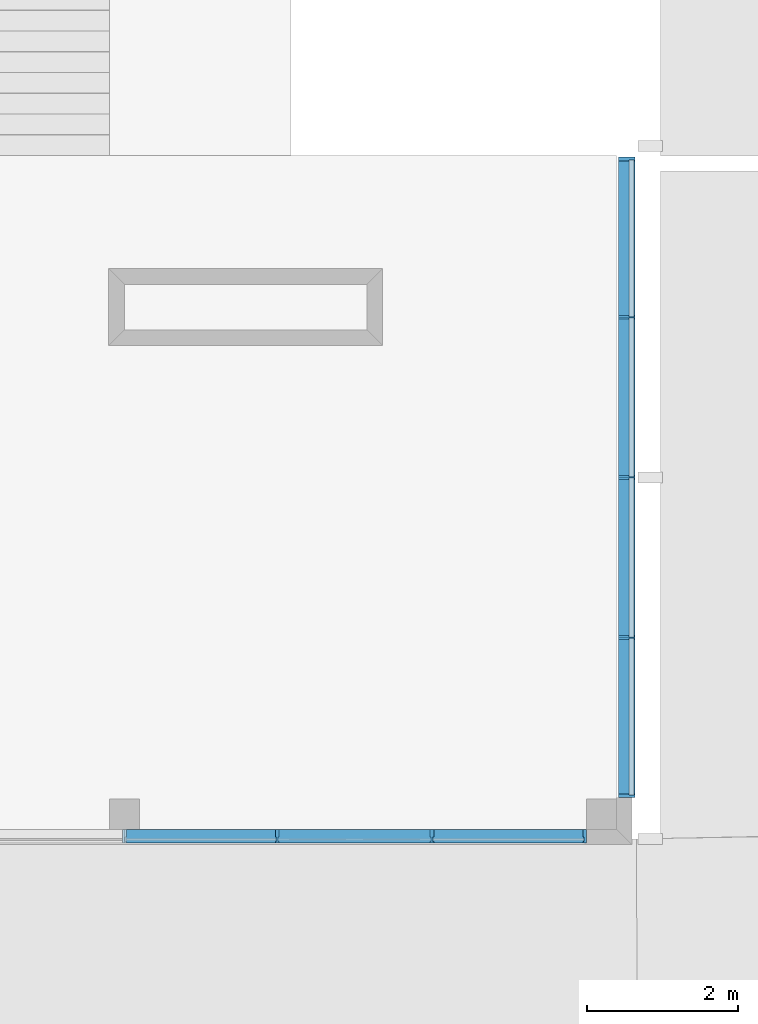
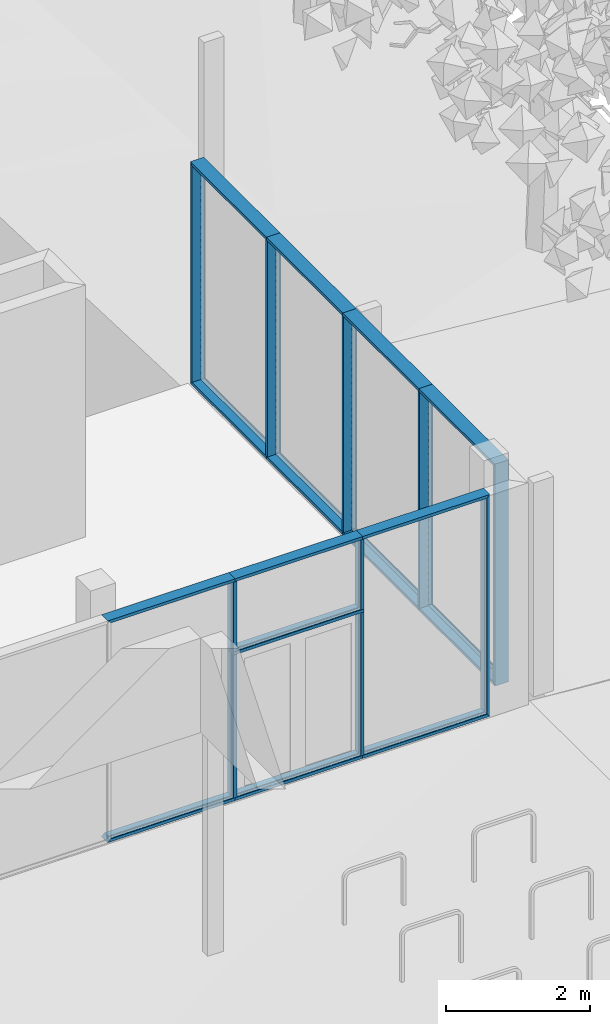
# One storey, part 6 of 69: 25 members, 2 elements without a shape of their own.
"""IFC2X3 building model written with IfcOpenShell, lengths in millimetres."""

from ifc_helpers import new_model, entity, si_unit, converted_unit, derived_unit, money_unit, direction, frame, origin_with_axes, place, context, subcontext, project, spatial, polyline, outline, extrude, clip, halfspace, material, type_object, element, aggregate, save


model = new_model("IFC2X3")

# Units and contexts
model_context = context("Model", 3, precision=0.01, world=origin_with_axes(), true_north=direction((0.0, 1.0)))
body_context = subcontext(model_context, "Body", "Model", "MODEL_VIEW")
ifc_project = project(units=[si_unit("LENGTHUNIT", "METRE", prefix="MILLI"), si_unit("AREAUNIT", "SQUARE_METRE"), si_unit("VOLUMEUNIT", "CUBIC_METRE"), converted_unit("PLANEANGLEUNIT", "DEGREE", entity("IfcPlaneAngleMeasure", 0.0174532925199), si_unit("PLANEANGLEUNIT", "RADIAN"), dimensions=[0, 0, 0, 0, 0, 0, 0]), si_unit("SOLIDANGLEUNIT", "STERADIAN"), money_unit("EUR"), converted_unit("TIMEUNIT", "Year", entity("IfcTimeMeasure", 31556926.0), si_unit("TIMEUNIT", "SECOND"), dimensions=[0, 0, 1, 0, 0, 0, 0]), si_unit("MASSUNIT", "GRAM", prefix="KILO"), si_unit("THERMODYNAMICTEMPERATUREUNIT", "DEGREE_CELSIUS"), si_unit("LUMINOUSINTENSITYUNIT", "LUMEN"), si_unit("ENERGYUNIT", "JOULE", prefix="MEGA"), derived_unit("THERMALCONDUCTANCEUNIT", [(si_unit("POWERUNIT", "WATT"), 1), (si_unit("LENGTHUNIT", "METRE"), -1), (si_unit("THERMODYNAMICTEMPERATUREUNIT", "KELVIN"), -1)]), derived_unit("SPECIFICHEATCAPACITYUNIT", [(si_unit("ENERGYUNIT", "JOULE"), 1), (si_unit("MASSUNIT", "GRAM", prefix="KILO"), -1), (si_unit("THERMODYNAMICTEMPERATUREUNIT", "KELVIN"), -1)]), derived_unit("MASSDENSITYUNIT", [(si_unit("MASSUNIT", "GRAM", prefix="KILO"), 1), (si_unit("VOLUMEUNIT", "CUBIC_METRE"), -1)])], contexts=[model_context])

# Site, building, storey
site_placement = place(None, origin_with_axes())
site = spatial("IfcSite", under=ifc_project, at=site_placement, Name="Puškini 31, Narva", CompositionType="ELEMENT")
building_placement = place(site_placement, origin_with_axes())
building = spatial("IfcBuilding", under=site, at=building_placement, Name="Narva Riigigümnaasium", CompositionType="ELEMENT")
storey_placement = place(building_placement, origin_with_axes())
storey = spatial("IfcBuildingStorey", under=building, at=storey_placement, Name="1.korrus 0.00", CompositionType="ELEMENT", Elevation=0.0)

# Curtain wall, members
curtain_wall_type = type_object("IfcCurtainWallType", Name="Curtain Wall Type", PredefinedType="NOTDEFINED")
curtain_wall_1_placement = place(storey_placement, frame((52576.1999988, 149970.00001, 0.0), z_axis=(0.0, 0.0, 1.0), x_axis=(1.0, 0.0, 0.0)))
curtain_wall_1 = element("IfcCurtainWall", 1, at=curtain_wall_1_placement, inside=storey, type_object=curtain_wall_type, Name="G-KLF-01c")
ifc_material = material(Name="ET-04_Alumiinium")
member_type_1 = type_object("IfcMemberType", Name="Mullion Frame 50 x 176", PredefinedType="MULLION")
member_1_placement = place(curtain_wall_1_placement, frame((-817.200000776, 0.0, 2499.9999757), z_axis=(0.0, 0.0, 1.0), x_axis=(1.0, 0.0, 0.0)))
member_1 = element("IfcMember", 2, at=member_1_placement, type_object=member_type_1, material=ifc_material, Name="Klaasfassaadi raam", ObjectType="MULLION", context=body_context, shape_type="SweptSolid", body=[
    extrude(outline(polyline([(-10.0, 29.0), (-10.0, -29.0), (-25.0, -29.0), (-25.0, -46.0), (25.0, -46.0), (25.0, -29.0), (10.0, -29.0), (10.0, 29.0), (25.0, 29.0), (25.0, 130.0), (-25.0, 130.0), (-25.0, 29.0), (-10.0, 29.0)])), frame((0.0, 0.0, 25.0), z_axis=(0.0, 0.0, 1.0), x_axis=(1.0, 0.0, 0.0)), (0.0, 0.0, 1.0), 1185.0000243),
])
member_2_placement = place(curtain_wall_1_placement, frame((-2860.20000272, 0.0, 2499.9999757), z_axis=(0.0, 0.0, 1.0), x_axis=(1.0, 0.0, 0.0)))
member_2 = element("IfcMember", 3, at=member_2_placement, type_object=member_type_1, material=ifc_material, Name="Klaasfassaadi raam", ObjectType="MULLION", context=body_context, shape_type="SweptSolid", body=[
    extrude(outline(polyline([(-10.0, 29.0), (-10.0, -29.0), (-25.0, -29.0), (-25.0, -46.0), (25.0, -46.0), (25.0, -29.0), (10.0, -29.0), (10.0, 29.0), (25.0, 29.0), (25.0, 130.0), (-25.0, 130.0), (-25.0, 29.0), (-10.0, 29.0)])), frame((0.0, 0.0, 25.0), z_axis=(0.0, 0.0, 1.0), x_axis=(1.0, 0.0, 0.0)), (0.0, 0.0, 1.0), 1185.0000243),
])
member_3_placement = place(curtain_wall_1_placement, frame((-2860.20000272, 0.0, 0.0), z_axis=(0.0, 0.0, 1.0), x_axis=(1.0, 0.0, 0.0)))
member_3 = element("IfcMember", 4, at=member_3_placement, type_object=member_type_1, material=ifc_material, Name="Klaasfassaadi raam", ObjectType="MULLION", context=body_context, shape_type="SweptSolid", body=[
    extrude(outline(polyline([(-10.0, 29.0), (-10.0, -29.0), (-25.0, -29.0), (-25.0, -46.0), (25.0, -46.0), (25.0, -29.0), (10.0, -29.0), (10.0, 29.0), (25.0, 29.0), (25.0, 130.0), (-25.0, 130.0), (-25.0, 29.0), (-10.0, 29.0)])), frame((0.0, 0.0, 50.0), z_axis=(0.0, 0.0, 1.0), x_axis=(1.0, 0.0, 0.0)), (0.0, 0.0, 1.0), 2424.9999757),
])
member_4_placement = place(curtain_wall_1_placement, frame((-817.200000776, 0.0, 0.0), z_axis=(0.0, 0.0, 1.0), x_axis=(1.0, 0.0, 0.0)))
member_4 = element("IfcMember", 5, at=member_4_placement, type_object=member_type_1, material=ifc_material, Name="Klaasfassaadi raam", ObjectType="MULLION", context=body_context, shape_type="SweptSolid", body=[
    extrude(outline(polyline([(-10.0, 29.0), (-10.0, -29.0), (-25.0, -29.0), (-25.0, -46.0), (25.0, -46.0), (25.0, -29.0), (10.0, -29.0), (10.0, 29.0), (25.0, 29.0), (25.0, 130.0), (-25.0, 130.0), (-25.0, 29.0), (-10.0, 29.0)])), frame((0.0, 0.0, 50.0), z_axis=(0.0, 0.0, 1.0), x_axis=(1.0, 0.0, 0.0)), (0.0, 0.0, 1.0), 2424.9999757),
])
member_type_2 = type_object("IfcMemberType", Name="Boundary Frame 50 x 176", PredefinedType="MULLION")
member_5_placement = place(curtain_wall_1_placement, frame((1225.80000116, 0.0, 0.0), z_axis=(-1.0, 0.0, 0.0), x_axis=(0.0, 0.0, 1.0)))
member_5 = element("IfcMember", 6, at=member_5_placement, type_object=member_type_2, material=ifc_material, Name="Klaasfassaadi raam", ObjectType="MULLION", context=body_context, shape_type="Clipping", body=[
    clip(extrude(outline(polyline([(29.0, -35.0), (29.0, -50.0), (130.0, -50.0), (130.0, 0.0), (-46.0, 0.0), (-46.0, -50.0), (-29.0, -50.0), (-29.0, -35.0), (29.0, -35.0)])), frame((0.0, 0.0, 0.0), z_axis=(0.0, 0.0, 1.0), x_axis=(0.0, 1.0, 0.0)), (0.0, 0.0, 1.0), 2043.00000194), halfspace(frame((0.0, 0.0, 0.0), z_axis=(-0.707106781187, 0.0, 0.707106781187), x_axis=(0.0, -1.0, 0.0)), True)),
])
member_6_placement = place(curtain_wall_1_placement, frame((1225.80000116, 0.0, 3760.0), z_axis=(-1.0, 0.0, 0.0), x_axis=(0.0, 0.0, 1.0)))
member_6 = element("IfcMember", 7, at=member_6_placement, type_object=member_type_2, material=ifc_material, Name="Klaasfassaadi raam", ObjectType="MULLION", context=body_context, shape_type="Clipping", body=[
    clip(extrude(outline(polyline([(29.0, 35.0), (-29.0, 35.0), (-29.0, 50.0), (-46.0, 50.0), (-46.0, 0.0), (130.0, 0.0), (130.0, 50.0), (29.0, 50.0), (29.0, 35.0)])), frame((0.0, 0.0, 0.0), z_axis=(0.0, 0.0, 1.0), x_axis=(0.0, 1.0, 0.0)), (0.0, 0.0, 1.0), 2043.00000194), halfspace(frame((0.0, 0.0, 0.0), z_axis=(0.707106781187, 0.0, 0.707106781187), x_axis=(0.0, -1.0, 0.0)), True)),
])
member_7_placement = place(curtain_wall_1_placement, frame((1225.80000116, 0.0, 0.0), z_axis=(0.0, 0.0, 1.0), x_axis=(1.0, 0.0, 0.0)))
member_7 = element("IfcMember", 8, at=member_7_placement, type_object=member_type_2, material=ifc_material, Name="Klaasfassaadi raam", ObjectType="MULLION", context=body_context, shape_type="Clipping", body=[
    clip(clip(extrude(outline(polyline([(-35.0, 29.0), (-35.0, -29.0), (-50.0, -29.0), (-50.0, -46.0), (0.0, -46.0), (0.0, 130.0), (-50.0, 130.0), (-50.0, 29.0), (-35.0, 29.0)])), origin_with_axes(), (0.0, 0.0, 1.0), 3760.0), halfspace(frame((-1880.0, 0.0, 1880.0), z_axis=(0.707106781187, 0.0, -0.707106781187), x_axis=(0.0, 1.0, 0.0)), True)), halfspace(frame((0.0, 0.0, 0.0), z_axis=(0.707106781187, 0.0, 0.707106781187), x_axis=(0.0, -1.0, 0.0)), True)),
])
member_8_placement = place(curtain_wall_1_placement, frame((-817.200000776, 0.0, 0.0), z_axis=(-1.0, 0.0, 0.0), x_axis=(0.0, 0.0, 1.0)))
member_8 = element("IfcMember", 9, at=member_8_placement, type_object=member_type_2, material=ifc_material, Name="Klaasfassaadi raam", ObjectType="MULLION", context=body_context, shape_type="SweptSolid", body=[
    extrude(outline(polyline([(29.0, -35.0), (29.0, -50.0), (130.0, -50.0), (130.0, 0.0), (-46.0, 0.0), (-46.0, -50.0), (-29.0, -50.0), (-29.0, -35.0), (29.0, -35.0)])), frame((0.0, 0.0, 0.0), z_axis=(0.0, 0.0, 1.0), x_axis=(0.0, 1.0, 0.0)), (0.0, 0.0, 1.0), 2043.00000194),
])
member_9_placement = place(curtain_wall_1_placement, frame((-817.200000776, 0.0, 3760.0), z_axis=(-1.0, 0.0, 0.0), x_axis=(0.0, 0.0, 1.0)))
member_9 = element("IfcMember", 10, at=member_9_placement, type_object=member_type_2, material=ifc_material, Name="Klaasfassaadi raam", ObjectType="MULLION", context=body_context, shape_type="SweptSolid", body=[
    extrude(outline(polyline([(29.0, 35.0), (-29.0, 35.0), (-29.0, 50.0), (-46.0, 50.0), (-46.0, 0.0), (130.0, 0.0), (130.0, 50.0), (29.0, 50.0), (29.0, 35.0)])), frame((0.0, 0.0, 0.0), z_axis=(0.0, 0.0, 1.0), x_axis=(0.0, 1.0, 0.0)), (0.0, 0.0, 1.0), 2043.00000194),
])
member_10_placement = place(curtain_wall_1_placement, frame((-2860.20000272, 0.0, 0.0), z_axis=(-1.0, 0.0, 0.0), x_axis=(0.0, 0.0, 1.0)))
member_10 = element("IfcMember", 11, at=member_10_placement, type_object=member_type_2, material=ifc_material, Name="Klaasfassaadi raam", ObjectType="MULLION", context=body_context, shape_type="Clipping", body=[
    clip(extrude(outline(polyline([(29.0, -35.0), (29.0, -50.0), (130.0, -50.0), (130.0, 0.0), (-46.0, 0.0), (-46.0, -50.0), (-29.0, -50.0), (-29.0, -35.0), (29.0, -35.0)])), frame((0.0, 0.0, 0.0), z_axis=(0.0, 0.0, 1.0), x_axis=(0.0, 1.0, 0.0)), (0.0, 0.0, 1.0), 2043.00000194), halfspace(frame((1021.50000097, 0.0, 1021.50000097), z_axis=(-0.707106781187, 0.0, -0.707106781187), x_axis=(0.0, 1.0, 0.0)), True)),
])
member_11_placement = place(curtain_wall_1_placement, frame((-2860.20000272, 0.0, 3760.0), z_axis=(-1.0, 0.0, 0.0), x_axis=(0.0, 0.0, 1.0)))
member_11 = element("IfcMember", 12, at=member_11_placement, type_object=member_type_2, material=ifc_material, Name="Klaasfassaadi raam", ObjectType="MULLION", context=body_context, shape_type="Clipping", body=[
    clip(extrude(outline(polyline([(29.0, 35.0), (-29.0, 35.0), (-29.0, 50.0), (-46.0, 50.0), (-46.0, 0.0), (130.0, 0.0), (130.0, 50.0), (29.0, 50.0), (29.0, 35.0)])), frame((0.0, 0.0, 0.0), z_axis=(0.0, 0.0, 1.0), x_axis=(0.0, 1.0, 0.0)), (0.0, 0.0, 1.0), 2043.00000194), halfspace(frame((-1021.50000097, 0.0, 1021.50000097), z_axis=(0.707106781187, 0.0, -0.707106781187), x_axis=(0.0, 1.0, 0.0)), True)),
])
member_12_placement = place(curtain_wall_1_placement, frame((-817.200000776, 0.0, 2499.9999757), z_axis=(-1.0, 0.0, 0.0), x_axis=(0.0, 0.0, 1.0)))
member_12 = element("IfcMember", 13, at=member_12_placement, type_object=member_type_2, material=ifc_material, Name="Klaasfassaadi raam", ObjectType="MULLION", context=body_context, shape_type="SweptSolid", body=[
    extrude(outline(polyline([(29.0, 10.0), (-29.0, 10.0), (-29.0, 25.0), (-46.0, 25.0), (-46.0, -25.0), (-29.0, -25.0), (-29.0, -10.0), (29.0, -10.0), (29.0, -25.0), (130.0, -25.0), (130.0, 25.0), (29.0, 25.0), (29.0, 10.0)])), frame((0.0, 0.0, -25.0), z_axis=(0.0, 0.0, 1.0), x_axis=(0.0, 1.0, 0.0)), (0.0, 0.0, 1.0), 2093.00000194),
])
aggregate(curtain_wall_1, [member_5, member_6, member_7, member_8, member_9, member_1, member_10, member_11, member_2, member_3, member_12, member_4])

curtain_wall_2_placement = place(storey_placement, frame((54395.000001, 153692.500006, -0.000186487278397), z_axis=(0.0, 0.0, 1.0), x_axis=(1.0, 0.0, 0.0)))
curtain_wall_2 = element("IfcCurtainWall", 14, at=curtain_wall_2_placement, inside=storey, type_object=curtain_wall_type, Name="G-KLF-02-1")
member_type_3 = type_object("IfcMemberType", Name="Boundary Frame 50 x 216", PredefinedType="MULLION")
member_13_placement = place(curtain_wall_2_placement, frame((0.0, 1057.49999878, 0.0), z_axis=(0.0, -1.0, 0.0), x_axis=(0.0, 0.0, 1.0)))
member_13 = element("IfcMember", 15, at=member_13_placement, type_object=member_type_3, material=ifc_material, Name="klaasfassaadi raam", ObjectType="MULLION", context=body_context, shape_type="SweptSolid", body=[
    extrude(outline(polyline([(31.0, -35.0), (31.0, -50.0), (170.0, -50.0), (170.0, 0.0), (-46.0, 0.0), (-46.0, -50.0), (-31.0, -50.0), (-31.0, -35.0), (31.0, -35.0)])), frame((0.0, 0.0, 0.0), z_axis=(0.0, 0.0, 1.0), x_axis=(0.0, 1.0, 0.0)), (0.0, 0.0, 1.0), 2115.0),
])
member_14_placement = place(curtain_wall_2_placement, frame((0.0, 3172.49999635, 0.0), z_axis=(0.0, -1.0, 0.0), x_axis=(0.0, 0.0, 1.0)))
member_14 = element("IfcMember", 16, at=member_14_placement, type_object=member_type_3, material=ifc_material, Name="klaasfassaadi raam", ObjectType="MULLION", context=body_context, shape_type="SweptSolid", body=[
    extrude(outline(polyline([(31.0, -35.0), (31.0, -50.0), (170.0, -50.0), (170.0, 0.0), (-46.0, 0.0), (-46.0, -50.0), (-31.0, -50.0), (-31.0, -35.0), (31.0, -35.0)])), frame((0.0, 0.0, 0.0), z_axis=(0.0, 0.0, 1.0), x_axis=(0.0, 1.0, 0.0)), (0.0, 0.0, 1.0), 2115.0),
])
member_15_placement = place(curtain_wall_2_placement, frame((0.0, -1057.49999878, 0.0), z_axis=(0.0, -1.0, 0.0), x_axis=(0.0, 0.0, 1.0)))
member_15 = element("IfcMember", 17, at=member_15_placement, type_object=member_type_3, material=ifc_material, Name="klaasfassaadi raam", ObjectType="MULLION", context=body_context, shape_type="Clipping", body=[
    clip(extrude(outline(polyline([(31.0, -35.0), (31.0, -50.0), (170.0, -50.0), (170.0, 0.0), (-46.0, 0.0), (-46.0, -50.0), (-31.0, -50.0), (-31.0, -35.0), (31.0, -35.0)])), frame((0.0, 0.0, 0.0), z_axis=(0.0, 0.0, 1.0), x_axis=(0.0, 1.0, 0.0)), (0.0, 0.0, 1.0), 2115.0), halfspace(frame((1057.5, 0.0, 1057.5), z_axis=(-0.707106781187, 0.0, -0.707106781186), x_axis=(0.0, 1.0, 0.0)), True)),
])
member_16_placement = place(curtain_wall_2_placement, frame((0.0, 3172.49999635, 3760.00020578), z_axis=(0.0, -1.0, 0.0), x_axis=(0.0, 0.0, 1.0)))
member_16 = element("IfcMember", 18, at=member_16_placement, type_object=member_type_3, material=ifc_material, Name="klaasfassaadi raam", ObjectType="MULLION", context=body_context, shape_type="SweptSolid", body=[
    extrude(outline(polyline([(31.0, 35.0), (-31.0, 35.0), (-31.0, 50.0), (-46.0, 50.0), (-46.0, 0.0), (170.0, 0.0), (170.0, 50.0), (31.0, 50.0), (31.0, 35.0)])), frame((0.0, 0.0, 0.0), z_axis=(0.0, 0.0, 1.0), x_axis=(0.0, 1.0, 0.0)), (0.0, 0.0, 1.0), 2115.0),
])
member_17_placement = place(curtain_wall_2_placement, frame((0.0, 1057.49999878, 3760.00020578), z_axis=(0.0, -1.0, 0.0), x_axis=(0.0, 0.0, 1.0)))
member_17 = element("IfcMember", 19, at=member_17_placement, type_object=member_type_3, material=ifc_material, Name="klaasfassaadi raam", ObjectType="MULLION", context=body_context, shape_type="SweptSolid", body=[
    extrude(outline(polyline([(31.0, 35.0), (-31.0, 35.0), (-31.0, 50.0), (-46.0, 50.0), (-46.0, 0.0), (170.0, 0.0), (170.0, 50.0), (31.0, 50.0), (31.0, 35.0)])), frame((0.0, 0.0, 0.0), z_axis=(0.0, 0.0, 1.0), x_axis=(0.0, 1.0, 0.0)), (0.0, 0.0, 1.0), 2115.0),
])
member_18_placement = place(curtain_wall_2_placement, frame((0.0, -1057.49999878, 3760.00020578), z_axis=(0.0, -1.0, 0.0), x_axis=(0.0, 0.0, 1.0)))
member_18 = element("IfcMember", 20, at=member_18_placement, type_object=member_type_3, material=ifc_material, Name="klaasfassaadi raam", ObjectType="MULLION", context=body_context, shape_type="Clipping", body=[
    clip(extrude(outline(polyline([(31.0, 35.0), (-31.0, 35.0), (-31.0, 50.0), (-46.0, 50.0), (-46.0, 0.0), (170.0, 0.0), (170.0, 50.0), (31.0, 50.0), (31.0, 35.0)])), frame((0.0, 0.0, 0.0), z_axis=(0.0, 0.0, 1.0), x_axis=(0.0, 1.0, 0.0)), (0.0, 0.0, 1.0), 2115.0), halfspace(frame((-1057.5, 0.0, 1057.5), z_axis=(0.707106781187, 0.0, -0.707106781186), x_axis=(0.0, 1.0, 0.0)), True)),
])
member_19_placement = place(curtain_wall_2_placement, frame((0.0, -3172.49999635, 0.0), z_axis=(0.0, 0.0, 1.0), x_axis=(0.0, 1.0, 0.0)))
member_19 = element("IfcMember", 21, at=member_19_placement, type_object=member_type_3, material=ifc_material, Name="klaasfassaadi raam", ObjectType="MULLION", context=body_context, shape_type="Clipping", body=[
    clip(clip(extrude(outline(polyline([(-31.0, 35.0), (-31.0, 50.0), (-170.0, 50.0), (-170.0, 0.0), (46.0, 0.0), (46.0, 50.0), (31.0, 50.0), (31.0, 35.0), (-31.0, 35.0)])), frame((0.0, 0.0, 0.0), z_axis=(0.0, 0.0, 1.0), x_axis=(0.0, -1.0, 0.0)), (0.0, 0.0, 1.0), 3760.00010987), halfspace(frame((1880.00005494, 0.0, 1880.00005494), z_axis=(-0.707106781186, 0.0, -0.707106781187), x_axis=(0.0, 1.0, 0.0)), True)), halfspace(frame((0.0, 0.0, 0.0), z_axis=(-0.707106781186, 0.0, 0.707106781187), x_axis=(0.0, -1.0, 0.0)), True)),
])
member_20_placement = place(curtain_wall_2_placement, frame((0.0, 5287.49999392, 0.0), z_axis=(0.0, -1.0, 0.0), x_axis=(0.0, 0.0, 1.0)))
member_20 = element("IfcMember", 22, at=member_20_placement, type_object=member_type_3, material=ifc_material, Name="klaasfassaadi raam", ObjectType="MULLION", context=body_context, shape_type="Clipping", body=[
    clip(extrude(outline(polyline([(31.0, -35.0), (31.0, -50.0), (170.0, -50.0), (170.0, 0.0), (-46.0, 0.0), (-46.0, -50.0), (-31.0, -50.0), (-31.0, -35.0), (31.0, -35.0)])), frame((0.0, 0.0, 0.0), z_axis=(0.0, 0.0, 1.0), x_axis=(0.0, 1.0, 0.0)), (0.0, 0.0, 1.0), 2115.0), halfspace(frame((0.0, 0.0, 0.0), z_axis=(-0.707106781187, 0.0, 0.707106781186), x_axis=(0.0, -1.0, 0.0)), True)),
])
member_21_placement = place(curtain_wall_2_placement, frame((0.0, 5287.49999392, 0.0), z_axis=(0.0, 0.0, 1.0), x_axis=(0.0, 1.0, 0.0)))
member_21 = element("IfcMember", 23, at=member_21_placement, type_object=member_type_3, material=ifc_material, Name="klaasfassaadi raam", ObjectType="MULLION", context=body_context, shape_type="Clipping", body=[
    clip(clip(extrude(outline(polyline([(-31.0, -35.0), (31.0, -35.0), (31.0, -50.0), (46.0, -50.0), (46.0, 0.0), (-170.0, 0.0), (-170.0, -50.0), (-31.0, -50.0), (-31.0, -35.0)])), frame((0.0, 0.0, 0.0), z_axis=(0.0, 0.0, 1.0), x_axis=(0.0, -1.0, 0.0)), (0.0, 0.0, 1.0), 3760.00010987), halfspace(frame((-1880.00005494, 0.0, 1880.00005494), z_axis=(0.707106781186, 0.0, -0.707106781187), x_axis=(0.0, 1.0, 0.0)), True)), halfspace(frame((0.0, 0.0, 0.0), z_axis=(0.707106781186, 0.0, 0.707106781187), x_axis=(0.0, -1.0, 0.0)), True)),
])
member_22_placement = place(curtain_wall_2_placement, frame((0.0, 5287.49999392, 3760.00020578), z_axis=(0.0, -1.0, 0.0), x_axis=(0.0, 0.0, 1.0)))
member_22 = element("IfcMember", 24, at=member_22_placement, type_object=member_type_3, material=ifc_material, Name="klaasfassaadi raam", ObjectType="MULLION", context=body_context, shape_type="Clipping", body=[
    clip(extrude(outline(polyline([(31.0, 35.0), (-31.0, 35.0), (-31.0, 50.0), (-46.0, 50.0), (-46.0, 0.0), (170.0, 0.0), (170.0, 50.0), (31.0, 50.0), (31.0, 35.0)])), frame((0.0, 0.0, 0.0), z_axis=(0.0, 0.0, 1.0), x_axis=(0.0, 1.0, 0.0)), (0.0, 0.0, 1.0), 2115.0), halfspace(frame((0.0, 0.0, 0.0), z_axis=(0.707106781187, 0.0, 0.707106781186), x_axis=(0.0, -1.0, 0.0)), True)),
])
member_type_4 = type_object("IfcMemberType", Name="Mullion Frame 50 x 216", PredefinedType="MULLION")
member_23_placement = place(curtain_wall_2_placement, frame((0.0, 3172.49999635, 0.0), z_axis=(0.0, 0.0, 1.0), x_axis=(0.0, 1.0, 0.0)))
member_23 = element("IfcMember", 25, at=member_23_placement, type_object=member_type_4, material=ifc_material, Name="klaasfassaadi raam", ObjectType="MULLION", context=body_context, shape_type="SweptSolid", body=[
    extrude(outline(polyline([(-31.0, -9.99999999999), (31.0, -9.99999999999), (31.0, -25.0), (46.0, -25.0), (46.0, 25.0), (31.0, 25.0), (31.0, 9.99999999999), (-31.0, 9.99999999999), (-31.0, 25.0), (-170.0, 25.0), (-170.0, -25.0), (-31.0, -25.0), (-31.0, -9.99999999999)])), frame((0.0, 0.0, 50.0), z_axis=(0.0, 0.0, 1.0), x_axis=(0.0, -1.0, 0.0)), (0.0, 0.0, 1.0), 3660.00020578),
])
member_24_placement = place(curtain_wall_2_placement, frame((0.0, 1057.49999878, 0.0), z_axis=(0.0, 0.0, 1.0), x_axis=(0.0, 1.0, 0.0)))
member_24 = element("IfcMember", 26, at=member_24_placement, type_object=member_type_4, material=ifc_material, Name="klaasfassaadi raam", ObjectType="MULLION", context=body_context, shape_type="SweptSolid", body=[
    extrude(outline(polyline([(-31.0, -9.99999999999), (31.0, -9.99999999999), (31.0, -25.0), (46.0, -25.0), (46.0, 25.0), (31.0, 25.0), (31.0, 9.99999999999), (-31.0, 9.99999999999), (-31.0, 25.0), (-170.0, 25.0), (-170.0, -25.0), (-31.0, -25.0), (-31.0, -9.99999999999)])), frame((0.0, 0.0, 50.0), z_axis=(0.0, 0.0, 1.0), x_axis=(0.0, -1.0, 0.0)), (0.0, 0.0, 1.0), 3660.00020578),
])
member_25_placement = place(curtain_wall_2_placement, frame((0.0, -1057.49999878, 0.0), z_axis=(0.0, 0.0, 1.0), x_axis=(0.0, 1.0, 0.0)))
member_25 = element("IfcMember", 27, at=member_25_placement, type_object=member_type_4, material=ifc_material, Name="klaasfassaadi raam", ObjectType="MULLION", context=body_context, shape_type="SweptSolid", body=[
    extrude(outline(polyline([(-31.0, -9.99999999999), (31.0, -9.99999999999), (31.0, -25.0), (46.0, -25.0), (46.0, 25.0), (31.0, 25.0), (31.0, 9.99999999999), (-31.0, 9.99999999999), (-31.0, 25.0), (-170.0, 25.0), (-170.0, -25.0), (-31.0, -25.0), (-31.0, -9.99999999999)])), frame((0.0, 0.0, 50.0), z_axis=(0.0, 0.0, 1.0), x_axis=(0.0, -1.0, 0.0)), (0.0, 0.0, 1.0), 3660.00020578),
])
aggregate(curtain_wall_2, [member_13, member_14, member_23, member_24, member_15, member_25, member_16, member_17, member_18, member_19, member_20, member_21, member_22])

save(model, "model.ifc")
